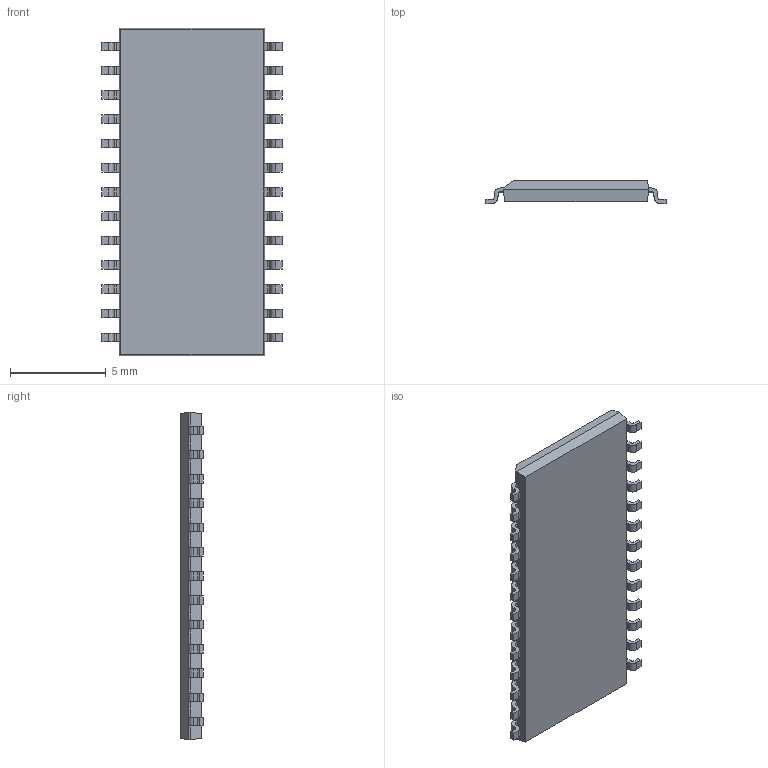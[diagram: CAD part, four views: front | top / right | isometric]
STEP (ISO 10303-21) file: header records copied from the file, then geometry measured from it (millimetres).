
FILE_DESCRIPTION (( 'STEP AP214' ), '1' );
FILE_NAME ('TSOP127P922X120-26_MS-025.AA.STEP', '2014-10-29T12:53:18', ( 'Tester2' ), ( '' ), 'SwSTEP 2.0', 'SolidWorks 2012', '' );
FILE_SCHEMA (( 'AUTOMOTIVE_DESIGN' ));
Length unit declared in the file: millimetre
Products named in the file (1): TSOP127P922X120-26_MS-025.AA
Bounding box: 9.42 x 1.2 x 17.14 mm (x, y, z)
Volume: 143 mm3; surface area: 349.2 mm2
Topology: 1 solids, 1 shells, 352 faces, 1043 edges, 694 vertices
Faces by surface type: plane 246, cylinder 106
Entity records: 15512 total; most frequent: CARTESIAN_POINT 2090, ORIENTED_EDGE 2086, DIRECTION 1961, EDGE_CURVE 1043, VECTOR 831, LINE 831, VERTEX_POINT 694, AXIS2_PLACEMENT_3D 565
